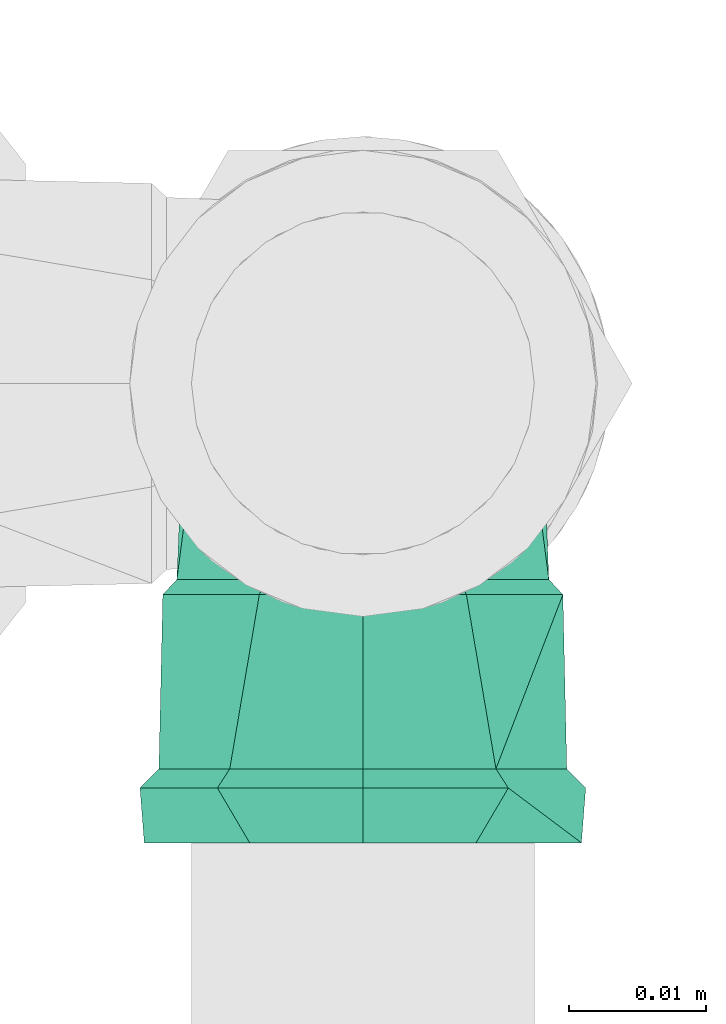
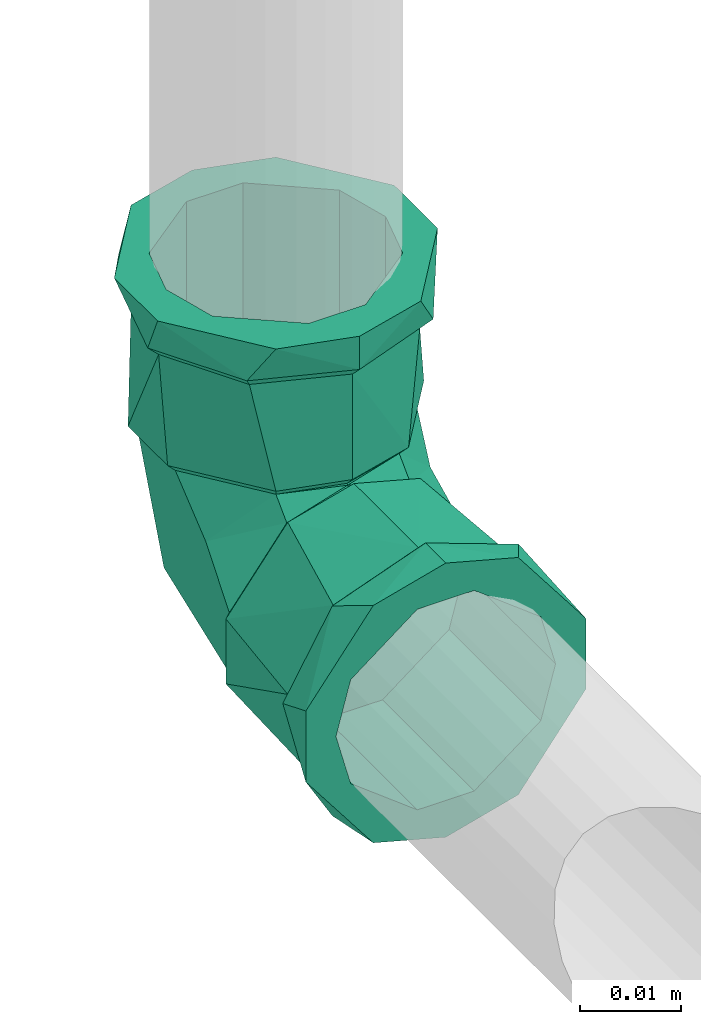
# One storey, part 373 of 589: 1 flow fitting.
"""IFC2X3 building model written with IfcOpenShell, lengths in millimetres."""

from ifc_helpers import new_model, entity, si_unit, converted_unit, derived_unit, direction, frame, origin, place, context, subcontext, project, spatial, faceted_brep, source, transform, mapped, material, type_object, type_shapes, element, save


model = new_model("IFC2X3")

# Units and contexts
model_context = context("Model", 3, precision=0.01, world=origin(), true_north=direction((6.123031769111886e-17, 1.0)))
body_context = subcontext(model_context, "Body", "Model", "MODEL_VIEW")
ifc_project = project(units=[si_unit("LENGTHUNIT", "METRE", prefix="MILLI"), si_unit("AREAUNIT", "SQUARE_METRE"), si_unit("VOLUMEUNIT", "CUBIC_METRE"), converted_unit("PLANEANGLEUNIT", "DEGREE", entity("IfcRatioMeasure", 0.017453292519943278), si_unit("PLANEANGLEUNIT", "RADIAN"), dimensions=[0, 0, 0, 0, 0, 0, 0]), si_unit("MASSUNIT", "GRAM", prefix="KILO"), derived_unit("MASSDENSITYUNIT", [(si_unit("MASSUNIT", "GRAM", prefix="KILO"), 1), (si_unit("LENGTHUNIT", "METRE"), -3)]), derived_unit("IONCONCENTRATIONUNIT", [(si_unit("MASSUNIT", "GRAM", prefix="KILO"), 1), (si_unit("LENGTHUNIT", "METRE"), -3)]), derived_unit("MOMENTOFINERTIAUNIT", [(si_unit("LENGTHUNIT", "METRE"), 4)]), si_unit("TIMEUNIT", "SECOND"), si_unit("FREQUENCYUNIT", "HERTZ"), si_unit("THERMODYNAMICTEMPERATUREUNIT", "DEGREE_CELSIUS"), derived_unit("THERMALTRANSMITTANCEUNIT", [(si_unit("MASSUNIT", "GRAM", prefix="KILO"), 1), (si_unit("THERMODYNAMICTEMPERATUREUNIT", "KELVIN"), -1), (si_unit("TIMEUNIT", "SECOND"), -3)]), derived_unit("THERMALCONDUCTANCEUNIT", [(si_unit("MASSUNIT", "GRAM", prefix="KILO"), 1), (si_unit("THERMODYNAMICTEMPERATUREUNIT", "KELVIN"), -1), (si_unit("TIMEUNIT", "SECOND"), -3), (si_unit("LENGTHUNIT", "METRE"), 1)]), derived_unit("VOLUMETRICFLOWRATEUNIT", [(si_unit("LENGTHUNIT", "METRE"), 3), (si_unit("TIMEUNIT", "SECOND"), -1)]), derived_unit("MASSFLOWRATEUNIT", [(si_unit("MASSUNIT", "GRAM", prefix="KILO"), 1), (si_unit("TIMEUNIT", "SECOND"), -1)]), derived_unit("ROTATIONALFREQUENCYUNIT", [(si_unit("TIMEUNIT", "SECOND"), -1)]), si_unit("ELECTRICCURRENTUNIT", "AMPERE"), si_unit("ELECTRICVOLTAGEUNIT", "VOLT"), si_unit("POWERUNIT", "WATT"), si_unit("FORCEUNIT", "NEWTON", prefix="KILO"), si_unit("ILLUMINANCEUNIT", "LUX"), si_unit("LUMINOUSFLUXUNIT", "LUMEN"), si_unit("LUMINOUSINTENSITYUNIT", "CANDELA"), derived_unit("USERDEFINED", [(si_unit("MASSUNIT", "GRAM", prefix="KILO"), -1), (si_unit("LENGTHUNIT", "METRE"), -2), (si_unit("TIMEUNIT", "SECOND"), 3), (si_unit("LUMINOUSFLUXUNIT", "LUMEN"), 1)]), derived_unit("USERDEFINED", [(si_unit("MASSUNIT", "GRAM", prefix="KILO"), 1), (si_unit("TIMEUNIT", "SECOND"), -3), (si_unit("LENGTHUNIT", "METRE"), 3), (si_unit("ELECTRICCURRENTUNIT", "AMPERE"), -2)]), derived_unit("SOUNDPOWERUNIT", [(si_unit("MASSUNIT", "GRAM", prefix="KILO"), 1), (si_unit("TIMEUNIT", "SECOND"), -3), (si_unit("LENGTHUNIT", "METRE"), 2)]), derived_unit("SOUNDPRESSUREUNIT", [(si_unit("MASSUNIT", "GRAM", prefix="KILO"), 1), (si_unit("LENGTHUNIT", "METRE"), -1), (si_unit("TIMEUNIT", "SECOND"), -2)]), derived_unit("LINEARVELOCITYUNIT", [(si_unit("LENGTHUNIT", "METRE"), 1), (si_unit("TIMEUNIT", "SECOND"), -1)]), si_unit("PRESSUREUNIT", "PASCAL"), derived_unit("USERDEFINED", [(si_unit("MASSUNIT", "GRAM", prefix="KILO"), 1), (si_unit("LENGTHUNIT", "METRE"), -2), (si_unit("TIMEUNIT", "SECOND"), -2)]), derived_unit("LINEARFORCEUNIT", [(si_unit("MASSUNIT", "GRAM", prefix="KILO"), 1), (si_unit("TIMEUNIT", "SECOND"), -2)]), derived_unit("PLANARFORCEUNIT", [(si_unit("MASSUNIT", "GRAM", prefix="KILO"), 1), (si_unit("LENGTHUNIT", "METRE"), -1), (si_unit("TIMEUNIT", "SECOND"), -2)]), derived_unit("SPECIFICHEATCAPACITYUNIT", [(si_unit("THERMODYNAMICTEMPERATUREUNIT", "KELVIN"), -1), (si_unit("LENGTHUNIT", "METRE"), 2), (si_unit("TIMEUNIT", "SECOND"), -2)]), derived_unit("HEATINGVALUEUNIT", [(si_unit("LENGTHUNIT", "METRE"), 2), (si_unit("TIMEUNIT", "SECOND"), -2)]), derived_unit("VAPORPERMEABILITYUNIT", [(si_unit("LENGTHUNIT", "METRE"), -1), (si_unit("TIMEUNIT", "SECOND"), 1)]), derived_unit("DYNAMICVISCOSITYUNIT", [(si_unit("MASSUNIT", "GRAM", prefix="KILO"), 1), (si_unit("TIMEUNIT", "SECOND"), -1), (si_unit("LENGTHUNIT", "METRE"), -1)]), derived_unit("THERMALEXPANSIONCOEFFICIENTUNIT", [(si_unit("THERMODYNAMICTEMPERATUREUNIT", "KELVIN"), -1)]), derived_unit("MODULUSOFELASTICITYUNIT", [(si_unit("MASSUNIT", "GRAM", prefix="KILO"), 1), (si_unit("LENGTHUNIT", "METRE"), -1), (si_unit("TIMEUNIT", "SECOND"), -2)]), derived_unit("ISOTHERMALMOISTURECAPACITYUNIT", [(si_unit("LENGTHUNIT", "METRE"), 3), (si_unit("MASSUNIT", "GRAM", prefix="KILO"), -1)]), derived_unit("MOISTUREDIFFUSIVITYUNIT", [(si_unit("TIMEUNIT", "SECOND"), -1), (si_unit("LENGTHUNIT", "METRE"), 2)])], contexts=[model_context])

# Site, building, storey
site_placement = place(None, origin())
site = spatial("IfcSite", under=ifc_project, at=site_placement, Name="Default", CompositionType="ELEMENT")
building_placement = place(site_placement, origin())
building = spatial("IfcBuilding", under=site, at=building_placement, CompositionType="ELEMENT")
storey_placement = place(building_placement, frame((0.0, 0.0, 100.0)))
storey = spatial("IfcBuildingStorey", under=building, at=storey_placement, Name="TÉRREO", CompositionType="ELEMENT", Elevation=100.0)

# Flow fitting
ifc_material = material(Name="PVC Marrom")
pipe_fitting_type = type_object("IfcPipeFittingType", Name="PVC Marrom Soldável_Joelho 45°_90°_Rodrigo MEP:Joelho", PredefinedType="NOTDEFINED", material=ifc_material)
shared_shape = source(origin(), body_context, "Body", "Brep", [
    faceted_brep([(-3.908167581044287, -15.40000000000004, 14.585479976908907), (-13.076983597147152, -15.40000000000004, 7.549999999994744), (-15.10000000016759, -15.40000000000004, 0.0), (-13.076983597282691, -15.40000000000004, -7.550000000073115), (-3.9081675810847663, -15.40000000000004, -14.585479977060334), (3.9081675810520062, -15.40000000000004, -14.585479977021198), (13.076983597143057, -15.40000000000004, -7.55000000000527), (15.099999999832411, -15.40000000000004, 0.0), (13.076983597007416, -15.40000000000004, 7.549999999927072), (3.908167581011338, -15.40000000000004, 14.585479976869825), (3.6338193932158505, -14.30000000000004, 13.561598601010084), (12.158996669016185, -14.30000000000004, 7.0199999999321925), (14.040000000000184, -14.30000000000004, 0.0), (12.158996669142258, -14.30000000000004, -7.020000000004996), (3.6338193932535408, -14.30000000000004, -13.561598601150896), (-3.6338193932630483, -14.30000000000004, -13.561598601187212), (-12.158996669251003, -14.30000000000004, -7.020000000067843), (-14.039999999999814, -14.30000000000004, 0.0), (-12.158996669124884, -14.30000000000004, 7.0199999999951), (-3.633819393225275, -14.30000000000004, 13.561598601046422)], [[[0, 1, 2, 3, 4, 5, 6, 7, 8, 9]], [[10, 11, 12, 13, 14, 15, 16, 17, 18, 19]], [[13, 12, 6]], [[14, 13, 6, 5]], [[12, 7, 6]], [[5, 4, 15, 14]], [[16, 15, 4, 3]], [[17, 16, 2]], [[16, 3, 2]], [[18, 17, 1]], [[19, 18, 1, 0]], [[17, 2, 1]], [[0, 9, 10, 19]], [[11, 10, 9, 8]], [[12, 11, 7]], [[11, 8, 7]]]),
    faceted_brep([(-15.399999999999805, -3.908167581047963, 14.585479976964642), (-15.399999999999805, 3.908167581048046, 14.585479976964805), (-15.399999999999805, 13.076983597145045, 7.550000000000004), (-15.399999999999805, 15.100000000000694, 0.0), (-15.399999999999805, 13.0769835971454, -7.550000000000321), (-15.399999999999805, 3.9081675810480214, -14.585479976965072), (-15.399999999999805, -3.9081675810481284, -14.58547997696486), (-15.399999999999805, -13.076983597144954, -7.54999999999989), (-15.399999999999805, -15.099999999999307, 0.0), (-15.399999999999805, -13.076983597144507, 7.549999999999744), (-14.299999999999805, 3.633819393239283, 13.56159860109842), (-14.299999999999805, -3.6338193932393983, 13.561598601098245), (-14.299999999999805, -12.158996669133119, 7.019999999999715), (-14.299999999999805, -14.040000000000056, 0.0), (-14.299999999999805, -12.158996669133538, -7.019999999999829), (-14.299999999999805, -3.6338193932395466, -13.56159860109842), (-14.299999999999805, 3.63381939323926, -13.561598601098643), (-14.299999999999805, 12.158996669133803, -7.020000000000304), (-14.299999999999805, 14.039999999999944, 0.0), (-14.299999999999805, 12.15899666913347, 7.020000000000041)], [[[0, 1, 2, 3, 4, 5, 6, 7, 8, 9]], [[10, 11, 12, 13, 14, 15, 16, 17, 18, 19]], [[14, 13, 8, 7]], [[15, 14, 7, 6]], [[6, 5, 16, 15]], [[17, 16, 5, 4]], [[18, 17, 4, 3]], [[19, 18, 3, 2]], [[10, 19, 2, 1]], [[1, 0, 11, 10]], [[12, 11, 0, 9]], [[13, 12, 9, 8]]]),
    faceted_brep([(-33.4999999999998, 0.0, -12.5), (-33.4999999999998, 6.250000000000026, -10.825317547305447), (-33.4999999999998, 4.2705142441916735, -15.937776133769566), (-33.4999999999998, -4.270514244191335, -15.937776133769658), (-33.4999999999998, -6.250000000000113, -10.82531754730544), (-33.4999999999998, 14.289419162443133, -8.25000000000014), (-33.4999999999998, 12.074072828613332, -3.23523806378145), (-33.4999999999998, 16.5, 0.0), (-33.4999999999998, 12.074072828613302, 3.2352380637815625), (-33.4999999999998, 14.289419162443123, 8.249999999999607), (-33.4999999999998, 6.249999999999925, 10.825317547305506), (-33.4999999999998, 4.27051424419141, 15.937776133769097), (-33.4999999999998, 0.0, 12.5), (-33.4999999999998, -4.270514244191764, 15.937776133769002), (-33.4999999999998, -6.249999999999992, 10.825317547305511), (-33.4999999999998, -14.28941916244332, 8.249999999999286), (-33.4999999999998, -12.074072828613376, 3.2352380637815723), (-33.4999999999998, -16.5, 0.0), (-33.4999999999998, -12.074072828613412, -3.235238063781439), (-33.4999999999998, -14.289419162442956, -8.250000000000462), (-29.499999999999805, -16.5, 0.0), (-29.500000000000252, -12.639142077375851, 10.606700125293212), (-29.50000000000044, -4.885841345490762, 13.427814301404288), (-29.5000000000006, 2.8674593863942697, 16.24892847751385), (-29.50000000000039, 12.64180232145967, 10.603529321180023), (-29.499999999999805, 16.499999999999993, 0.0), (-29.49999999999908, 12.641802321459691, -10.603529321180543), (-29.499999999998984, 4.889209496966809, -13.426588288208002), (-29.4999999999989, -2.8633833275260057, -16.249647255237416), (-29.499999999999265, -12.639142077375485, -10.606700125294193), (-28.10000000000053, 11.56916454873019, 9.703835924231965), (-28.099999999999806, 15.099999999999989, 0.0), (-28.10000000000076, 2.624159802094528, 14.870231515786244), (-28.100000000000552, -4.471285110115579, 12.288484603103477), (-28.100000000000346, -11.566730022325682, 9.706737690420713), (-28.09999999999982, -15.099999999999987, 0.0), (-28.099999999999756, -11.566730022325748, -9.706737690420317), (-28.099999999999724, -2.620429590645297, -14.87088930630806), (-28.099999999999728, 4.4743674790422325, -12.287362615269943), (-28.09999999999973, 11.569164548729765, -9.703835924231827), (-15.399999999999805, 3.908167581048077, -14.585479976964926), (-15.399999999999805, 6.250000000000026, -10.825317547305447), (-15.399999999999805, 0.0, -12.5), (-15.399999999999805, 13.076983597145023, -7.549999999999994), (-15.399999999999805, -3.9081675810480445, -14.585479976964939), (-15.399999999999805, 12.074072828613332, -3.23523806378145), (-15.399999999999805, 15.099999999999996, 0.0), (-15.399999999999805, 12.074072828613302, 3.2352380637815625), (-15.399999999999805, 13.076983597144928, 7.550000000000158), (-15.399999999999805, 6.249999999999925, 10.825317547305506), (-15.399999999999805, 3.9081675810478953, 14.585479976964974), (-15.399999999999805, 0.0, 12.5), (-15.399999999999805, -3.9081675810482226, 14.58547997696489), (-15.399999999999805, -6.249999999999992, 10.825317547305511), (-15.399999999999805, -13.076983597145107, 7.549999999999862), (-15.399999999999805, -12.074072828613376, 3.2352380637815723), (-15.399999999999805, -15.100000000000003, 0.0), (-15.399999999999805, -12.074072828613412, -3.235238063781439), (-15.399999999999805, -13.076983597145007, -7.550000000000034), (-15.399999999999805, -6.250000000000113, -10.82531754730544)], [[[0, 1, 2]], [[2, 3, 0]], [[4, 0, 3]], [[5, 2, 1]], [[1, 6, 5]], [[6, 7, 5]], [[8, 7, 6]], [[7, 8, 9]], [[10, 9, 8]], [[9, 10, 11]], [[12, 11, 10]], [[13, 11, 12]], [[12, 14, 13]], [[13, 14, 15]], [[16, 15, 14]], [[15, 16, 17]], [[16, 18, 17]], [[19, 18, 4]], [[17, 18, 19]], [[3, 19, 4]], [[20, 15, 17]], [[20, 21, 15]], [[13, 15, 21]], [[13, 21, 22, 23]], [[9, 11, 24]], [[7, 9, 25]], [[23, 24, 11]], [[25, 9, 24]], [[13, 23, 11]], [[25, 5, 7]], [[25, 26, 5]], [[2, 5, 26]], [[2, 26, 27, 28]], [[19, 3, 29]], [[17, 19, 20]], [[28, 29, 3]], [[20, 19, 29]], [[2, 28, 3]], [[24, 30, 31, 25]], [[30, 24, 23, 32]], [[33, 32, 23, 22, 21, 34]], [[20, 35, 34, 21]], [[29, 36, 35, 20]], [[36, 29, 28, 37]], [[38, 37, 28, 27, 26, 39]], [[25, 31, 39, 26]], [[40, 41, 42]], [[41, 40, 43]], [[42, 44, 40]], [[43, 45, 41]], [[43, 46, 45]], [[45, 46, 47]], [[48, 47, 46]], [[47, 48, 49]], [[50, 49, 48]], [[49, 50, 51]], [[51, 50, 52]], [[52, 53, 51]], [[54, 53, 52]], [[53, 54, 55]], [[56, 55, 54]], [[56, 57, 55]], [[58, 57, 56]], [[59, 57, 58]], [[59, 58, 44]], [[44, 42, 59]], [[54, 34, 35]], [[56, 54, 35]], [[52, 34, 54]], [[52, 32, 33, 34]], [[30, 32, 50]], [[31, 30, 48]], [[50, 48, 30]], [[46, 31, 48]], [[52, 50, 32]], [[43, 39, 31]], [[46, 43, 31]], [[40, 39, 43]], [[40, 37, 38, 39]], [[36, 37, 44]], [[35, 36, 58]], [[44, 58, 36]], [[56, 35, 58]], [[40, 44, 37]], [[49, 51, 12, 10]], [[47, 49, 10, 8]], [[8, 6, 45, 47]], [[41, 45, 6, 1]], [[42, 41, 1, 0]], [[59, 42, 0, 4]], [[57, 59, 4, 18]], [[18, 16, 55, 57]], [[53, 55, 16, 14]], [[51, 53, 14, 12]]]),
    faceted_brep([(-14.299999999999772, 3.6338193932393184, -13.561598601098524), (-14.299999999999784, -3.63381939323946, -13.561598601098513), (-14.299999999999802, -12.158996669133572, -7.019999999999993), (-14.299999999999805, -14.04000000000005, 0.0), (-14.299999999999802, -12.158996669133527, 7.0200000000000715), (-14.299999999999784, -3.633819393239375, 13.561598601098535), (-14.299999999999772, 3.6338193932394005, 13.561598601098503), (-14.299999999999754, 12.158996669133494, 7.019999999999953), (-14.29999999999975, 14.039999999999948, 0.0), (-14.299999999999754, 12.158996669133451, -7.020000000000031), (3.633819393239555, -14.29999999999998, -13.561598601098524), (12.158996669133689, -14.299999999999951, -7.020000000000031), (14.040000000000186, -14.299999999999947, 0.0), (12.158996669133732, -14.299999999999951, 7.019999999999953), (3.6338193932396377, -14.29999999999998, 13.561598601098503), (-3.6338193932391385, -14.300000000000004, 13.561598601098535), (-12.158996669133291, -14.300000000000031, 7.0200000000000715), (-14.039999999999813, -14.300000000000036, 0.0), (-12.158996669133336, -14.300000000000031, -7.019999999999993), (-3.633819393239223, -14.300000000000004, -13.561598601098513), (-0.12999999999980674, 10.243159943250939, 0.0), (-8.296884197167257, -8.296884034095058, 12.78130953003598), (-0.45476175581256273, -0.4547603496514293, 13.009299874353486), (-4.9057767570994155, 9.090331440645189, 8.841582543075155), (3.6031967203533, 3.777073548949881, 0.0), (9.102895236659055, -4.991225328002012, 8.866254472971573), (-14.116152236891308, -14.116152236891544, 0.0), (7.336393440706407, -2.689012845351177, 0.0), (-4.905776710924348, 9.090331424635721, -8.841582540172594), (-0.45476143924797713, -0.45476027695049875, -13.009299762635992), (9.102895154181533, -4.991225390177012, -8.866254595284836), (-8.296884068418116, -8.296883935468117, -12.78130960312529)], [[[0, 1, 2, 3, 4, 5, 6, 7, 8, 9]], [[10, 11, 12, 13, 14, 15, 16, 17, 18, 19]], [[7, 20, 8]], [[5, 21, 22]], [[7, 23, 20]], [[24, 23, 22]], [[14, 13, 25]], [[22, 6, 5]], [[24, 20, 23]], [[4, 3, 26]], [[4, 21, 5]], [[23, 6, 22]], [[14, 22, 15]], [[13, 27, 25]], [[15, 22, 21]], [[25, 22, 14]], [[6, 23, 7]], [[27, 24, 25]], [[16, 26, 17]], [[22, 25, 24]], [[4, 26, 16]], [[21, 16, 15]], [[16, 21, 4]], [[12, 27, 13]], [[28, 29, 0]], [[11, 10, 30]], [[18, 2, 31]], [[1, 29, 31]], [[20, 9, 8]], [[30, 29, 24]], [[0, 9, 28]], [[1, 0, 29]], [[19, 31, 29]], [[1, 31, 2]], [[26, 3, 2]], [[18, 17, 26]], [[30, 10, 29]], [[24, 27, 30]], [[31, 19, 18]], [[10, 19, 29]], [[27, 12, 11]], [[24, 29, 28]], [[24, 28, 20]], [[20, 28, 9]], [[30, 27, 11]], [[26, 2, 18]]]),
    faceted_brep([(-3.908167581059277, -15.40000000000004, -14.585479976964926), (-6.249999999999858, -15.40000000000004, -10.825317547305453), (0.0, -15.40000000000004, -12.5), (-13.076983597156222, -15.40000000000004, -7.549999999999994), (3.9081675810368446, -15.40000000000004, -14.585479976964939), (-12.07407282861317, -15.40000000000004, -3.235238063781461), (-15.100000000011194, -15.40000000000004, 0.0), (-12.074072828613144, -15.40000000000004, 3.2352380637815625), (-13.076983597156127, -15.40000000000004, 7.550000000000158), (-6.249999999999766, -15.40000000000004, 10.825317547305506), (-3.9081675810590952, -15.40000000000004, 14.585479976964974), (0.0, -15.40000000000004, 12.5), (3.9081675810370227, -15.40000000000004, 14.58547997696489), (6.250000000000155, -15.40000000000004, 10.825317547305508), (13.076983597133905, -15.40000000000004, 7.549999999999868), (12.074072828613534, -15.40000000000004, 3.2352380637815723), (15.099999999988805, -15.40000000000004, 0.0), (12.07407282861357, -15.40000000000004, -3.235238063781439), (13.07698359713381, -15.40000000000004, -7.550000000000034), (6.250000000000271, -15.40000000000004, -10.82531754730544), (11.56673002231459, -28.100000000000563, 9.706737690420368), (15.099999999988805, -28.10000000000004, 0.0), (2.6204295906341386, -28.100000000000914, 14.870889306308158), (-11.569164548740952, -28.10000000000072, 9.703835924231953), (-4.474367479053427, -28.100000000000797, 12.287362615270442), (-15.100000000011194, -28.10000000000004, 0.0), (-11.569164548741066, -28.10000000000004, -9.703835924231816), (-2.6241598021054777, -28.10000000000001, -14.870231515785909), (11.566730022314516, -28.10000000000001, -9.706737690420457), (4.471285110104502, -28.10000000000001, -12.288484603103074), (2.8674593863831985, -29.50000000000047, 16.248928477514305), (-4.8858413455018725, -29.500000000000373, 13.427814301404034), (-16.50000000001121, -29.500000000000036, 0.0), (-12.639142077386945, -29.50000000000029, 10.606700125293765), (12.641802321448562, -29.500000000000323, 10.603529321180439), (16.499999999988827, -29.50000000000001, 0.0), (12.64180232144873, -29.500000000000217, -10.603529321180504), (4.889209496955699, -29.50000000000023, -13.426588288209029), (-2.863383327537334, -29.500000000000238, -16.249647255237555), (-12.639142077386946, -29.500000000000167, -10.606700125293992), (0.0, -33.50000000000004, -12.5), (-6.249999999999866, -33.50000000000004, -10.825317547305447), (-4.270514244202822, -33.50000000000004, -15.937776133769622), (4.270514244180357, -33.50000000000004, -15.937776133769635), (6.250000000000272, -33.50000000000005, -10.82531754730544), (-14.289419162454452, -33.50000000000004, -8.249999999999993), (-12.074072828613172, -33.50000000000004, -3.23523806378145), (-16.50000000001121, -33.50000000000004, 0.0), (-12.074072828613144, -33.50000000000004, 3.2352380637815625), (-14.28941916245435, -33.50000000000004, 8.250000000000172), (-6.2499999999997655, -33.50000000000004, 10.825317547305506), (-4.270514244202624, -33.50000000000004, 15.937776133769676), (0.0, -33.50000000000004, 12.5), (4.270514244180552, -33.50000000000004, 15.937776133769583), (6.250000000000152, -33.50000000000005, 10.825317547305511), (14.289419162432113, -33.50000000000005, 8.249999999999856), (12.074072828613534, -33.50000000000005, 3.2352380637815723), (16.49999999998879, -33.50000000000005, 0.0), (12.07407282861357, -33.50000000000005, -3.235238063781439), (14.289419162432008, -33.50000000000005, -8.250000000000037)], [[[0, 1, 2]], [[1, 0, 3]], [[2, 4, 0]], [[3, 5, 1]], [[3, 6, 5]], [[5, 6, 7]], [[8, 7, 6]], [[7, 8, 9]], [[10, 9, 8]], [[9, 10, 11]], [[11, 10, 12]], [[12, 13, 11]], [[14, 13, 12]], [[13, 14, 15]], [[16, 15, 14]], [[16, 17, 15]], [[18, 17, 16]], [[19, 17, 18]], [[19, 18, 4]], [[4, 2, 19]], [[14, 20, 21]], [[16, 14, 21]], [[12, 20, 14]], [[12, 22, 20]], [[10, 23, 24, 22]], [[25, 23, 8]], [[10, 8, 23]], [[6, 25, 8]], [[12, 10, 22]], [[3, 26, 25]], [[6, 3, 25]], [[0, 26, 3]], [[0, 27, 26]], [[4, 28, 29, 27]], [[21, 28, 18]], [[4, 18, 28]], [[16, 21, 18]], [[0, 4, 27]], [[30, 22, 31]], [[32, 23, 25]], [[33, 23, 32]], [[31, 24, 33]], [[34, 21, 20]], [[24, 23, 33]], [[20, 30, 34]], [[21, 34, 35]], [[24, 31, 22]], [[22, 30, 20]], [[36, 28, 21]], [[21, 35, 36]], [[36, 37, 28]], [[37, 29, 28]], [[37, 38, 29]], [[32, 25, 26]], [[27, 39, 26]], [[32, 26, 39]], [[27, 29, 38]], [[38, 39, 27]], [[40, 41, 42]], [[42, 43, 40]], [[44, 40, 43]], [[45, 42, 41]], [[41, 46, 45]], [[46, 47, 45]], [[48, 47, 46]], [[47, 48, 49]], [[50, 49, 48]], [[49, 50, 51]], [[52, 51, 50]], [[53, 51, 52]], [[52, 54, 53]], [[53, 54, 55]], [[56, 55, 54]], [[55, 56, 57]], [[56, 58, 57]], [[59, 58, 44]], [[57, 58, 59]], [[43, 59, 44]], [[35, 55, 57]], [[35, 34, 55]], [[53, 55, 34]], [[30, 53, 34]], [[49, 51, 33]], [[47, 49, 32]], [[51, 30, 31, 33]], [[32, 49, 33]], [[53, 30, 51]], [[32, 45, 47]], [[32, 39, 45]], [[42, 45, 39]], [[38, 42, 39]], [[59, 43, 36]], [[57, 59, 35]], [[43, 38, 37, 36]], [[35, 59, 36]], [[42, 38, 43]], [[9, 11, 52, 50]], [[7, 9, 50, 48]], [[48, 46, 5, 7]], [[1, 5, 46, 41]], [[2, 1, 41, 40]], [[19, 2, 40, 44]], [[17, 19, 44, 58]], [[58, 56, 15, 17]], [[13, 15, 56, 54]], [[11, 13, 54, 52]]]),
])
type_shapes(pipe_fitting_type, [shared_shape])
flow_fitting_placement = place(storey_placement, frame((-2746.898265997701, 1275.961226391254, 600.0), z_axis=(1.0, 0.0, 0.0), x_axis=(0.0, 0.0, -1.0)))
element("IfcFlowFitting", 1, at=flow_fitting_placement, inside=storey, type_object=pipe_fitting_type, material=ifc_material, Name="PVC Marrom Soldável_Joelho 45°_90°_Rodrigo MEP:Joelho", ObjectType="PVC Marrom Soldável_Joelho 45°_90°_Rodrigo MEP:Joelho", context=body_context, shape_type="MappedRepresentation", body=[
    mapped(shared_shape, transform((0.0, 0.0, 0.0), scale=1.0)),
])

save(model, "model.ifc")
